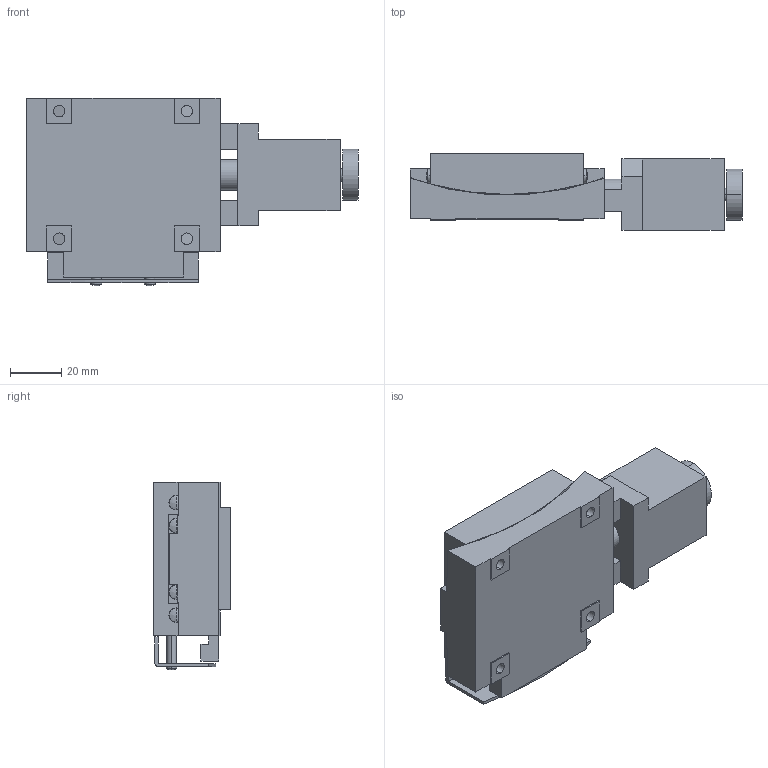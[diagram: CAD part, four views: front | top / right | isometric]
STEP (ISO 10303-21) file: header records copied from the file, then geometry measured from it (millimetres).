
FILE_DESCRIPTION (( 'STEP AP203' ), '1' );
FILE_NAME ('ATS-C612C-HM_a.STEP', '2022-01-28T07:11:51', ( '' ), ( '' ), 'SwSTEP 2.0', 'SolidWorks 2016', '' );
FILE_SCHEMA (( 'CONFIG_CONTROL_DESIGN' ));
Length unit declared in the file: millimetre
Products named in the file (3): ATS-C612C-HM_a; ATS-C612C-HM-2_a; ATS-C612C-HM-1_a
Assembly tree (2 placements, depth 2):
  ATS-C612C-HM_a
    ATS-C612C-HM-1_a
    ATS-C612C-HM-2_a
Bounding box: 130 x 30 x 73.4 mm (x, y, z)
Volume: 148111.3 mm3; surface area: 40194.3 mm2
Topology: 2 solids, 2 shells, 219 faces, 537 edges, 346 vertices
Faces by surface type: plane 99, cylinder 74, cone 26, sphere 20
Entity records: 7254 total; most frequent: CARTESIAN_POINT 1633, DIRECTION 1143, ORIENTED_EDGE 1062, EDGE_CURVE 531, AXIS2_PLACEMENT_3D 412, VERTEX_POINT 346, VECTOR 319, LINE 319
